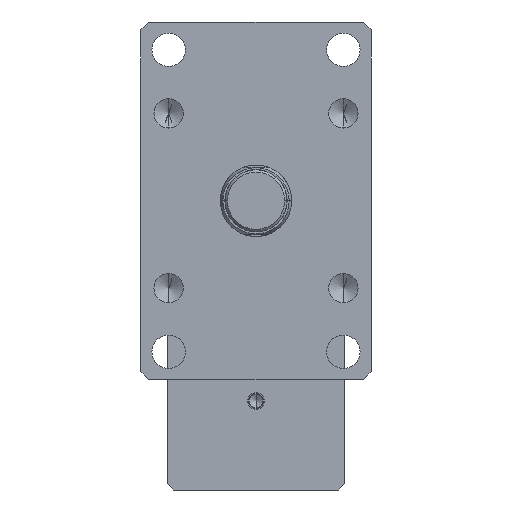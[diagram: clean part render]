
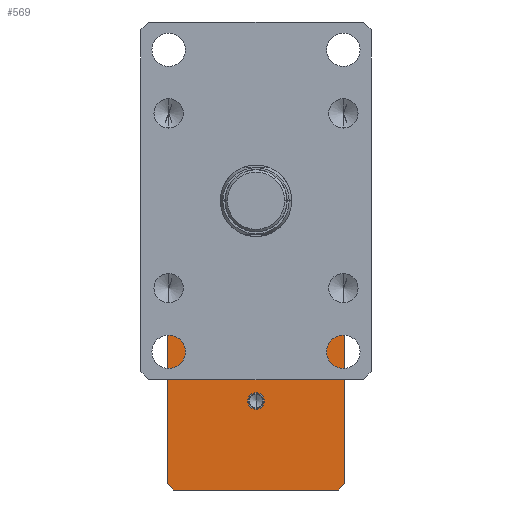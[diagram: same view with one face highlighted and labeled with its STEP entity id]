
A CAD part, left-side view. The second image highlights one B-rep face of the part: STEP entity #569.
In plain terms, the highlighted planar face has unit normal (-1, 0, 0).
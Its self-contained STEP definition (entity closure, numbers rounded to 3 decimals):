
#525 = CARTESIAN_POINT ( 'NONE',  ( 375., -56., -74. ) ) ;
#569 = ADVANCED_FACE ( 'NONE', ( #6770, #4142 ), #10478, .F. ) ;
#619 = EDGE_LOOP ( 'NONE', ( #6811, #5239, #6171, #8806, #9282, #7718, #5832, #5011 ) ) ;
#710 = EDGE_CURVE ( 'NONE', #4180, #3050, #2581, .T. ) ;
#989 = CARTESIAN_POINT ( 'NONE',  ( 375., 52., -182. ) ) ;
#1712 = AXIS2_PLACEMENT_3D ( 'NONE', #11646, #5767, #12626 ) ;
#1719 = EDGE_CURVE ( 'NONE', #9844, #10390, #6093, .T. ) ;
#1836 = DIRECTION ( 'NONE',  ( 0., 0., 1. ) ) ;
#1894 = CARTESIAN_POINT ( 'NONE',  ( 375., -56., -178. ) ) ;
#2244 = LINE ( 'NONE', #11401, #12108 ) ;
#2323 = VERTEX_POINT ( 'NONE', #2349 ) ;
#2349 = CARTESIAN_POINT ( 'NONE',  ( 375., 0., -131.143 ) ) ;
#2504 = CARTESIAN_POINT ( 'NONE',  ( 375., 56., -178. ) ) ;
#2532 = CARTESIAN_POINT ( 'NONE',  ( 375., 52., -182. ) ) ;
#2581 = LINE ( 'NONE', #11678, #12763 ) ;
#3010 = DIRECTION ( 'NONE',  ( -1., 0., 0. ) ) ;
#3050 = VERTEX_POINT ( 'NONE', #2532 ) ;
#3181 = DIRECTION ( 'NONE',  ( 0., 0.707, -0.707 ) ) ;
#3259 = LINE ( 'NONE', #989, #10533 ) ;
#3447 = VECTOR ( 'NONE', #7442, 1000. ) ;
#3804 = LINE ( 'NONE', #12252, #4429 ) ;
#3875 = VECTOR ( 'NONE', #1836, 1000. ) ;
#3906 = CIRCLE ( 'NONE', #1712, 5.143 ) ;
#4028 = VECTOR ( 'NONE', #12052, 1000. ) ;
#4142 = FACE_OUTER_BOUND ( 'NONE', #619, .T. ) ;
#4180 = VERTEX_POINT ( 'NONE', #5128 ) ;
#4429 = VECTOR ( 'NONE', #5380, 1000. ) ;
#4662 = EDGE_LOOP ( 'NONE', ( #8175, #8953 ) ) ;
#5011 = ORIENTED_EDGE ( 'NONE', *, *, #7511, .T. ) ;
#5128 = CARTESIAN_POINT ( 'NONE',  ( 375., -52., -182. ) ) ;
#5239 = ORIENTED_EDGE ( 'NONE', *, *, #1719, .T. ) ;
#5240 = CARTESIAN_POINT ( 'NONE',  ( 375., 56., -74. ) ) ;
#5293 = VERTEX_POINT ( 'NONE', #6783 ) ;
#5380 = DIRECTION ( 'NONE',  ( 0., 1., 0. ) ) ;
#5391 = EDGE_CURVE ( 'NONE', #11235, #3050, #3259, .T. ) ;
#5767 = DIRECTION ( 'NONE',  ( -1., 0., 0. ) ) ;
#5793 = VECTOR ( 'NONE', #3181, 1000. ) ;
#5795 = DIRECTION ( 'NONE',  ( 0., 1., 0. ) ) ;
#5832 = ORIENTED_EDGE ( 'NONE', *, *, #710, .F. ) ;
#6093 = LINE ( 'NONE', #525, #3447 ) ;
#6171 = ORIENTED_EDGE ( 'NONE', *, *, #6791, .T. ) ;
#6414 = LINE ( 'NONE', #5240, #5793 ) ;
#6524 = LINE ( 'NONE', #9695, #3875 ) ;
#6674 = LINE ( 'NONE', #11013, #4028 ) ;
#6770 = FACE_BOUND ( 'NONE', #4662, .T. ) ;
#6783 = CARTESIAN_POINT ( 'NONE',  ( 375., 52., -70. ) ) ;
#6791 = EDGE_CURVE ( 'NONE', #10390, #5293, #3804, .T. ) ;
#6811 = ORIENTED_EDGE ( 'NONE', *, *, #8697, .T. ) ;
#6927 = CARTESIAN_POINT ( 'NONE',  ( 375., -52., -70. ) ) ;
#7113 = EDGE_CURVE ( 'NONE', #12028, #2323, #8619, .T. ) ;
#7442 = DIRECTION ( 'NONE',  ( 0., 0.707, 0.707 ) ) ;
#7511 = EDGE_CURVE ( 'NONE', #4180, #8176, #2244, .T. ) ;
#7576 = CARTESIAN_POINT ( 'NONE',  ( 375., 56., -74. ) ) ;
#7718 = ORIENTED_EDGE ( 'NONE', *, *, #5391, .T. ) ;
#8175 = ORIENTED_EDGE ( 'NONE', *, *, #7113, .F. ) ;
#8176 = VERTEX_POINT ( 'NONE', #1894 ) ;
#8534 = EDGE_CURVE ( 'NONE', #11235, #9725, #6524, .T. ) ;
#8619 = CIRCLE ( 'NONE', #10360, 5.143 ) ;
#8697 = EDGE_CURVE ( 'NONE', #8176, #9844, #6674, .T. ) ;
#8806 = ORIENTED_EDGE ( 'NONE', *, *, #12552, .T. ) ;
#8953 = ORIENTED_EDGE ( 'NONE', *, *, #12762, .F. ) ;
#8954 = CARTESIAN_POINT ( 'NONE',  ( 375., 0., -126. ) ) ;
#9282 = ORIENTED_EDGE ( 'NONE', *, *, #8534, .F. ) ;
#9478 = DIRECTION ( 'NONE',  ( 0., -0.707, 0.707 ) ) ;
#9492 = CARTESIAN_POINT ( 'NONE',  ( 375., -56., -182. ) ) ;
#9695 = CARTESIAN_POINT ( 'NONE',  ( 375., 56., -182. ) ) ;
#9725 = VERTEX_POINT ( 'NONE', #7576 ) ;
#9844 = VERTEX_POINT ( 'NONE', #12668 ) ;
#9914 = DIRECTION ( 'NONE',  ( 0., 0., 1. ) ) ;
#10360 = AXIS2_PLACEMENT_3D ( 'NONE', #8954, #3010, #9914 ) ;
#10390 = VERTEX_POINT ( 'NONE', #6927 ) ;
#10478 = PLANE ( 'NONE',  #12213 ) ;
#10533 = VECTOR ( 'NONE', #12796, 1000. ) ;
#11013 = CARTESIAN_POINT ( 'NONE',  ( 375., -56., -182. ) ) ;
#11235 = VERTEX_POINT ( 'NONE', #2504 ) ;
#11401 = CARTESIAN_POINT ( 'NONE',  ( 375., -52., -182. ) ) ;
#11420 = DIRECTION ( 'NONE',  ( 1., 0., 0. ) ) ;
#11460 = DIRECTION ( 'NONE',  ( 0., 0., -1. ) ) ;
#11646 = CARTESIAN_POINT ( 'NONE',  ( 375., 0., -126. ) ) ;
#11678 = CARTESIAN_POINT ( 'NONE',  ( 375., -56., -182. ) ) ;
#12028 = VERTEX_POINT ( 'NONE', #12128 ) ;
#12052 = DIRECTION ( 'NONE',  ( 0., 0., 1. ) ) ;
#12108 = VECTOR ( 'NONE', #9478, 1000. ) ;
#12128 = CARTESIAN_POINT ( 'NONE',  ( 375., 0., -120.857 ) ) ;
#12213 = AXIS2_PLACEMENT_3D ( 'NONE', #9492, #11420, #11460 ) ;
#12252 = CARTESIAN_POINT ( 'NONE',  ( 375., -56., -70. ) ) ;
#12552 = EDGE_CURVE ( 'NONE', #5293, #9725, #6414, .T. ) ;
#12626 = DIRECTION ( 'NONE',  ( 0., 0., 1. ) ) ;
#12668 = CARTESIAN_POINT ( 'NONE',  ( 375., -56., -74. ) ) ;
#12762 = EDGE_CURVE ( 'NONE', #2323, #12028, #3906, .T. ) ;
#12763 = VECTOR ( 'NONE', #5795, 1000. ) ;
#12796 = DIRECTION ( 'NONE',  ( 0., -0.707, -0.707 ) ) ;
